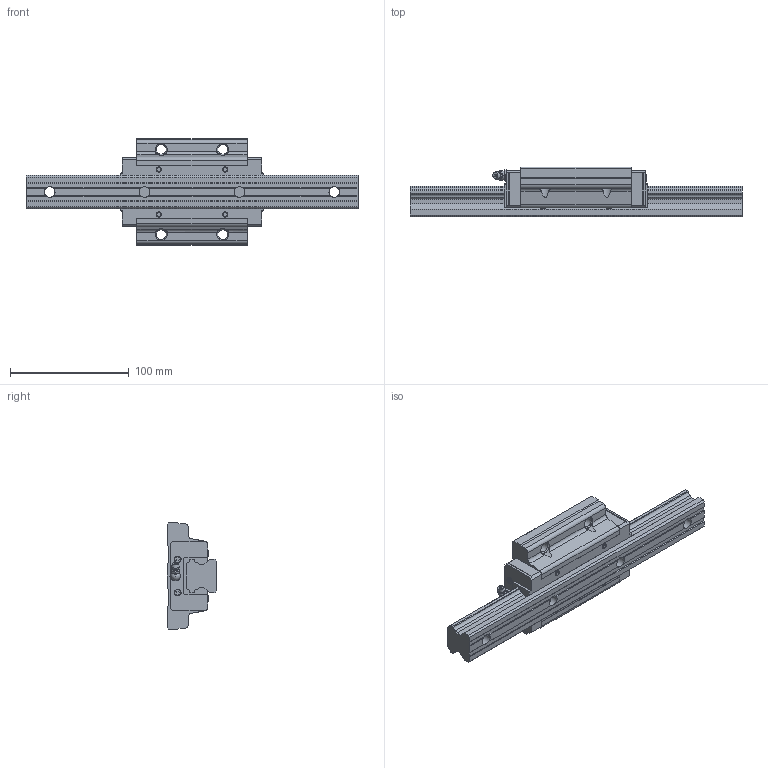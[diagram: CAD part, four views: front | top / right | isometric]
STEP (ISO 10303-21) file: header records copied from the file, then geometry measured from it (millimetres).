
FILE_DESCRIPTION(/* description */ ('STEP AP203'),/* implementation_level */ '2;1');
FILE_NAME(/* name */ 'HSR30M1LA1SS-280L_G20_0_B-M6F_79-3_0_0_0_1',/* time_stamp */ '2024-05-23T06:12:14+02:00',/* author */ ('License CC BY-ND 4.0'),/* organization */ ('CADENAS'),/* preprocessor_version */ 'ST-DEVELOPER v19.3',/* originating_system */ 'PARTsolutions',/* authorisation */ ' ');
FILE_SCHEMA (('CONFIG_CONTROL_DESIGN'));
Length unit declared in the file: millimetre
Products named in the file (4): HSR30M1LA1SS-280L_G20_0_B-M6F_79-3_0_0_0_1; HSR30M1LA128020 Rail; HSR30M1LASSB-M6F1 Slider; hsr_ftht_B-M6F_grease_nipple_joint
Assembly tree (3 placements, depth 2):
  HSR30M1LA1SS-280L_G20_0_B-M6F_79-3_0_0_0_1
    HSR30M1LA128020 Rail
    HSR30M1LASSB-M6F1 Slider
    hsr_ftht_B-M6F_grease_nipple_joint
Bounding box: 280 x 42 x 90 mm (x, y, z)
Volume: 394481.6 mm3; surface area: 74216.5 mm2
Topology: 3 solids, 3 shells, 274 faces, 740 edges, 481 vertices
Faces by surface type: plane 194, cylinder 46, cone 21, torus 10, sphere 3
Full cylindrical faces by diameter (mm): 4.37 x4, 4.917 x2, 5.7 x4, 6 x1, 8 x1, 8.376 x4, 9 x4, 14 x4
Entity records: 8349 total; most frequent: CARTESIAN_POINT 1561, ORIENTED_EDGE 1348, DIRECTION 1348, EDGE_CURVE 674, LINE 492, VECTOR 492, VERTEX_POINT 469, AXIS2_PLACEMENT_3D 428
